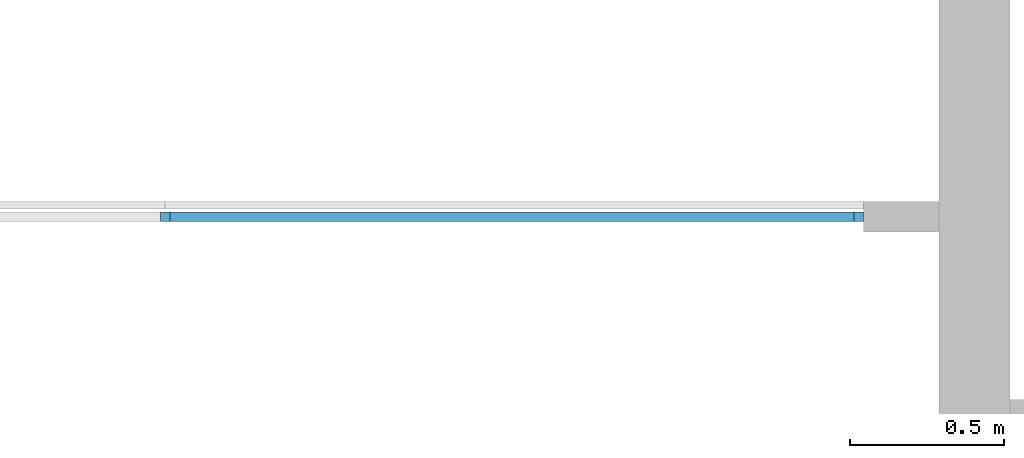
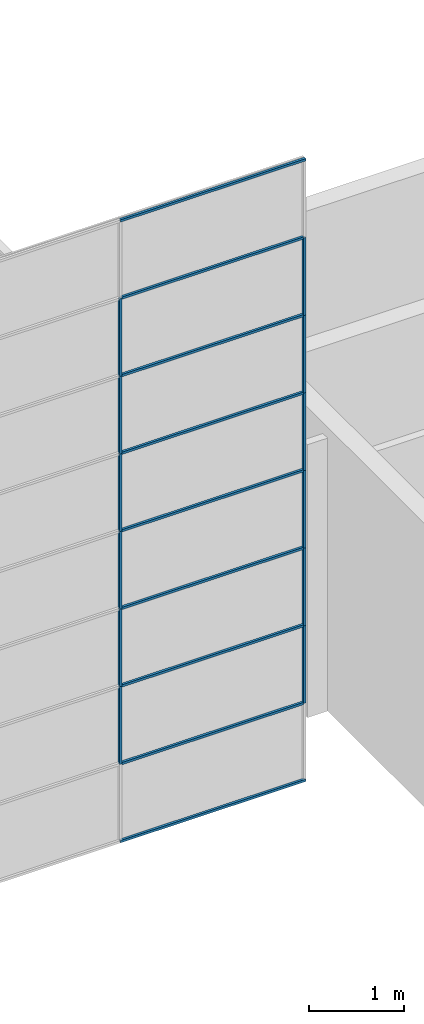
# One storey, part 3 of 16: 21 members, 1 element without a shape of its own.
"""IFC2X3 building model written with IfcOpenShell, lengths in millimetres."""

import ifcopenshell
import ifcopenshell.guid

model = None  # the IFC model being written
_history = None  # IfcOwnerHistory: only IFC2X3 demands one
_inside = {}  # id of a spatial element -> (the spatial element, [elements in it])
_under = {}  # id of a project, library or spatial element -> (it, [spatial elements below it])
_declared = {}  # id of a project -> (the project, [libraries it declares])
_typed = {}  # id of a type object -> (the type object, [elements of that type])
_made_of = {}  # id of a material, layer set ... -> (it, [elements and type objects made of it])


def new_model(schema):
    """Start an empty IFC model of exactly this schema.

    Asked for "IFC4X3", IfcOpenShell would pick the latest addendum, in which some entities
    have other attributes; the version numbers below select the first issue.
    IFC2X3 requires an IfcOwnerHistory on every rooted entity: one is made here for all.
    """
    global model, _history
    if schema == "IFC4X3":
        model = ifcopenshell.file(schema_version=(4, 3, 0, 0))
    else:
        model = ifcopenshell.file(schema=schema)
    _inside.clear()
    _under.clear()
    _declared.clear()
    _typed.clear()
    _made_of.clear()
    _history = None
    if model.schema == "IFC2X3":
        org = make("IfcOrganization", Name="unknown")
        user = make(
            "IfcPersonAndOrganization",
            ThePerson=make("IfcPerson", FamilyName="unknown"),
            TheOrganization=org,
        )
        app = make(
            "IfcApplication",
            ApplicationDeveloper=org,
            Version="unknown",
            ApplicationFullName="unknown",
            ApplicationIdentifier="unknown",
        )
        _history = make(
            "IfcOwnerHistory",
            OwningUser=user,
            OwningApplication=app,
            ChangeAction="ADDED",
            CreationDate=0,
        )
    return model


def make(cls, **values):
    """One entity of the class cls with the attributes given. An attribute that is None is left unset."""
    return model.create_entity(
        cls, **{name: value for name, value in values.items() if value is not None}
    )


def entity(cls, *values):
    """Any entity or typed value of the class cls, its attributes in the order of the schema. None: left unset."""
    e = model.create_entity(cls)
    for i, value in enumerate(values):
        if value is not None:
            e[i] = value
    return e


def rooted(cls, **values):
    """An entity with a GlobalId (a new one), such as an element, a storey or a relation."""
    return make(cls, GlobalId=ifcopenshell.guid.new(), OwnerHistory=_history, **values)


def si_unit(unit_type, name, prefix=None):
    """IfcSIUnit, for example si_unit("LENGTHUNIT", "METRE", prefix="MILLI")."""
    return make("IfcSIUnit", UnitType=unit_type, Prefix=prefix, Name=name)


def converted_unit(unit_type, name, factor, base, dimensions=None, offset=None):
    """IfcConversionBasedUnit, such as the inch: factor (a typed value) times the base unit."""
    return make(
        "IfcConversionBasedUnit"
        if offset is None
        else "IfcConversionBasedUnitWithOffset",
        ConversionOffset=offset,
        Dimensions=None
        if dimensions is None
        else entity("IfcDimensionalExponents", *dimensions),
        UnitType=unit_type,
        Name=name,
        ConversionFactor=make(
            "IfcMeasureWithUnit", ValueComponent=factor, UnitComponent=base
        ),
    )


def derived_unit(unit_type, elements):
    """IfcDerivedUnit: a product of units, each with its exponent."""
    return make(
        "IfcDerivedUnit",
        Elements=[
            make("IfcDerivedUnitElement", Unit=unit, Exponent=power)
            for unit, power in elements
        ],
        UnitType=unit_type,
    )


def assignment(units):
    """IfcUnitAssignment: the units of a project."""
    return None if units is None else make("IfcUnitAssignment", Units=units)


def point(xyz):
    """IfcCartesianPoint."""
    return None if xyz is None else make("IfcCartesianPoint", Coordinates=xyz)


def direction(xyz):
    """IfcDirection."""
    return None if xyz is None else make("IfcDirection", DirectionRatios=xyz)


def frame(location, z_axis=None, x_axis=None):
    """IfcAxis2Placement3D, a coordinate frame: its origin and axes. An axis left out is left unset."""
    return make(
        "IfcAxis2Placement3D",
        Location=point(location),
        Axis=direction(z_axis),
        RefDirection=direction(x_axis),
    )


def frame_2d(location, x_axis=None):
    """IfcAxis2Placement2D, a coordinate frame in the plane: its origin and x axis."""
    return make(
        "IfcAxis2Placement2D", Location=point(location), RefDirection=direction(x_axis)
    )


def origin():
    """The frame at (0, 0, 0) with its axes left unset."""
    return frame((0.0, 0.0, 0.0))


def origin_2d_with_axis():
    """The frame at (0, 0) in the plane with the x axis (1, 0) written out."""
    return frame_2d((0.0, 0.0), x_axis=(1.0, 0.0))


def place(relative_to, where):
    """IfcLocalPlacement: puts the frame where relative to a parent placement (None: the world)."""
    return make(
        "IfcLocalPlacement", PlacementRelTo=relative_to, RelativePlacement=where
    )


def context(
    kind, dimensions, precision=None, world=None, true_north=None, identifier=None
):
    """IfcGeometricRepresentationContext, for example the 3D "Model" context."""
    return make(
        "IfcGeometricRepresentationContext",
        ContextIdentifier=identifier,
        ContextType=kind,
        CoordinateSpaceDimension=dimensions,
        Precision=precision,
        WorldCoordinateSystem=world,
        TrueNorth=true_north,
    )


def subcontext(parent, identifier, kind, view, scale=None):
    """IfcGeometricRepresentationSubContext, for example "Body" below "Model"."""
    return make(
        "IfcGeometricRepresentationSubContext",
        ContextIdentifier=identifier,
        ContextType=kind,
        ParentContext=parent,
        TargetScale=scale,
        TargetView=view,
    )


def project(units=None, contexts=None):
    """IfcProject with its units and contexts."""
    return rooted(
        "IfcProject",
        Name="project",
        RepresentationContexts=contexts,
        UnitsInContext=assignment(units),
    )


def spatial(cls, under=None, at=None, **own):
    """A site, building, storey or space (cls), placed at a placement, below another one or the project."""
    s = rooted(cls, ObjectPlacement=at, **own)
    if under is not None:
        _under.setdefault(under.id(), (under, []))[1].append(s)
    return s


def profile(cls, at=None, kind="AREA", **sizes):
    """A parametric profile (cls). Its sizes go by their IFC names, for example OverallWidth=200.0."""
    return make(cls, ProfileType=kind, Position=at, **sizes)


def rectangle(**sizes):
    """IfcRectangleProfileDef."""
    return profile("IfcRectangleProfileDef", **sizes)


def extrude(swept, where, along, depth):
    """IfcExtrudedAreaSolid: the profile swept, set in the frame where, extruded along a direction by depth."""
    return make(
        "IfcExtrudedAreaSolid",
        SweptArea=swept,
        Position=where,
        ExtrudedDirection=direction(along),
        Depth=depth,
    )


def shape(context_of_items, identifier, shape_type, items):
    """IfcShapeRepresentation: the items that make up one representation, for example the "Body"."""
    return make(
        "IfcShapeRepresentation",
        ContextOfItems=context_of_items,
        RepresentationIdentifier=identifier,
        RepresentationType=shape_type,
        Items=items,
    )


def source(mapping_origin, context_of_items, identifier, shape_type, items):
    """IfcRepresentationMap: a shape defined once, which mapped items show again and again."""
    return make(
        "IfcRepresentationMap",
        MappingOrigin=mapping_origin,
        MappedRepresentation=shape(context_of_items, identifier, shape_type, items),
    )


def transform(
    local_origin,
    x_axis=None,
    y_axis=None,
    z_axis=None,
    scale=None,
    scale2=None,
    scale3=None,
    uniform=True,
):
    """IfcCartesianTransformationOperator3D, or its non-uniform kind. x_axis, y_axis, z_axis: its Axis1, 2, 3."""
    if uniform:
        return make(
            "IfcCartesianTransformationOperator3D",
            Axis1=direction(x_axis),
            Axis2=direction(y_axis),
            LocalOrigin=point(local_origin),
            Scale=scale,
            Axis3=direction(z_axis),
        )
    return make(
        "IfcCartesianTransformationOperator3DnonUniform",
        Axis1=direction(x_axis),
        Axis2=direction(y_axis),
        LocalOrigin=point(local_origin),
        Scale=scale,
        Axis3=direction(z_axis),
        Scale2=scale2,
        Scale3=scale3,
    )


def mapped(mapping_source, mapping_target):
    """IfcMappedItem: shows the shape of a source again, moved by a transform."""
    return make(
        "IfcMappedItem", MappingSource=mapping_source, MappingTarget=mapping_target
    )


def material(Name=None, Category=None):
    """IfcMaterial."""
    return make("IfcMaterial", Name=Name, Category=Category)


def made_of(thing, what):
    """Note that an element or type object is made of a material, layer set ...; save() writes the relation."""
    if what is not None:
        _made_of.setdefault(what.id(), (what, []))[1].append(thing)
    return thing


def type_object(cls, material=None, **own):
    """A type object (cls), such as IfcWallType, which elements share."""
    return made_of(rooted(cls, **own), material)


def type_shapes(of_type, sources):
    """Give a type object the sources (RepresentationMaps) that its elements show as mapped items."""
    of_type.RepresentationMaps = sources


def element(
    cls,
    number,
    at=None,
    inside=None,
    cuts=None,
    type_object=None,
    material=None,
    context=None,
    identifier="Body",
    shape_type=None,
    held_by="IfcProductDefinitionShape",
    body=None,
    shapes=None,
    **own,
):
    """One element of the class cls, such as IfcWall. Its Tag is "e" and its number.

    at: its placement. inside: the storey or other place that contains it. cuts: it is an
    opening in that element (IfcRelVoidsElement). A single representation is given by context,
    identifier, shape_type and body (its items); several are given by shapes. held_by: the class
    of the entity that holds the representations. save() writes the other relations.
    """
    e = rooted(cls, Tag="e%d" % number, ObjectPlacement=at, **own)
    if body is not None:
        shapes = [shape(context, identifier, shape_type, body)]
    if shapes is not None:
        e.Representation = make(held_by, Representations=shapes)
    if inside is not None:
        _inside.setdefault(inside.id(), (inside, []))[1].append(e)
    if cuts is not None:
        rooted(
            "IfcRelVoidsElement", RelatingBuildingElement=cuts, RelatedOpeningElement=e
        )
    if type_object is not None:
        _typed.setdefault(type_object.id(), (type_object, []))[1].append(e)
    return made_of(e, material)


def aggregate(whole, parts):
    """IfcRelAggregates: a whole, such as a stair, and the parts it consists of."""
    return rooted("IfcRelAggregates", RelatingObject=whole, RelatedObjects=parts)


def save(model, path):
    """Write the relations noted so far, then the file.

    IfcRelAggregates (storeys below a building ...), IfcRelContainedInSpatialStructure (elements
    in a storey), IfcRelDefinesByType, IfcRelAssociatesMaterial and IfcRelDeclares: one each for
    every whole, place, type object, material and project.
    """
    for whole, parts in _under.values():
        aggregate(whole, parts)
    for where, things in _inside.values():
        rooted(
            "IfcRelContainedInSpatialStructure",
            RelatedElements=things,
            RelatingStructure=where,
        )
    for kind, things in _typed.values():
        rooted("IfcRelDefinesByType", RelatedObjects=things, RelatingType=kind)
    for what, things in _made_of.values():
        rooted("IfcRelAssociatesMaterial", RelatedObjects=things, RelatingMaterial=what)
    for by, libraries in _declared.values():
        rooted("IfcRelDeclares", RelatingContext=by, RelatedDefinitions=libraries)
    model.write(path)


model = new_model("IFC2X3")

# Units and contexts
model_context = context("Model", 3, precision=0.01, world=origin(), true_north=direction((6.12303176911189e-17, 1.0)))
body_context = subcontext(model_context, "Body", "Model", "MODEL_VIEW")
ifc_project = project(units=[si_unit("LENGTHUNIT", "METRE", prefix="MILLI"), si_unit("AREAUNIT", "SQUARE_METRE"), si_unit("VOLUMEUNIT", "CUBIC_METRE"), converted_unit("PLANEANGLEUNIT", "DEGREE", entity("IfcRatioMeasure", 0.0174532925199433), si_unit("PLANEANGLEUNIT", "RADIAN"), dimensions=[0, 0, 0, 0, 0, 0, 0]), si_unit("MASSUNIT", "GRAM", prefix="KILO"), derived_unit("MASSDENSITYUNIT", [(si_unit("MASSUNIT", "GRAM", prefix="KILO"), 1), (si_unit("LENGTHUNIT", "METRE"), -3)]), derived_unit("MOMENTOFINERTIAUNIT", [(si_unit("LENGTHUNIT", "METRE"), 4)]), si_unit("TIMEUNIT", "SECOND"), si_unit("FREQUENCYUNIT", "HERTZ"), si_unit("THERMODYNAMICTEMPERATUREUNIT", "DEGREE_CELSIUS"), derived_unit("THERMALTRANSMITTANCEUNIT", [(si_unit("MASSUNIT", "GRAM", prefix="KILO"), 1), (si_unit("THERMODYNAMICTEMPERATUREUNIT", "KELVIN"), -1), (si_unit("TIMEUNIT", "SECOND"), -3)]), derived_unit("VOLUMETRICFLOWRATEUNIT", [(si_unit("LENGTHUNIT", "METRE"), 3), (si_unit("TIMEUNIT", "SECOND"), -1)]), si_unit("ELECTRICCURRENTUNIT", "AMPERE"), si_unit("ELECTRICVOLTAGEUNIT", "VOLT"), si_unit("POWERUNIT", "WATT"), si_unit("FORCEUNIT", "NEWTON", prefix="KILO"), si_unit("ILLUMINANCEUNIT", "LUX"), si_unit("LUMINOUSFLUXUNIT", "LUMEN"), si_unit("LUMINOUSINTENSITYUNIT", "CANDELA"), derived_unit("USERDEFINED", [(si_unit("MASSUNIT", "GRAM", prefix="KILO"), -1), (si_unit("LENGTHUNIT", "METRE"), -2), (si_unit("TIMEUNIT", "SECOND"), 3), (si_unit("LUMINOUSFLUXUNIT", "LUMEN"), 1)]), derived_unit("LINEARVELOCITYUNIT", [(si_unit("LENGTHUNIT", "METRE"), 1), (si_unit("TIMEUNIT", "SECOND"), -1)]), si_unit("PRESSUREUNIT", "PASCAL"), derived_unit("USERDEFINED", [(si_unit("LENGTHUNIT", "METRE"), -2), (si_unit("MASSUNIT", "GRAM", prefix="KILO"), 1), (si_unit("TIMEUNIT", "SECOND"), -2)]), derived_unit("LINEARFORCEUNIT", [(si_unit("MASSUNIT", "GRAM", prefix="KILO"), 1), (si_unit("LENGTHUNIT", "METRE"), 1), (si_unit("TIMEUNIT", "SECOND"), -2), (si_unit("LENGTHUNIT", "METRE"), -1)]), derived_unit("PLANARFORCEUNIT", [(si_unit("MASSUNIT", "GRAM", prefix="KILO"), 1), (si_unit("LENGTHUNIT", "METRE"), 1), (si_unit("TIMEUNIT", "SECOND"), -2), (si_unit("LENGTHUNIT", "METRE"), -2)])], contexts=[model_context])

# Site, building, storey
site_placement = place(None, frame((10627.5135316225, 21939.0796949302, 0.0)))
site = spatial("IfcSite", under=ifc_project, at=site_placement, Name="Default", CompositionType="ELEMENT")
building_placement = place(site_placement, origin())
building = spatial("IfcBuilding", under=site, at=building_placement, CompositionType="ELEMENT")
storey_placement = place(building_placement, frame((0.0, 0.0, 3660.0)))
storey = spatial("IfcBuildingStorey", under=building, at=storey_placement, Name="R+1", CompositionType="ELEMENT", Elevation=3660.0)

# Curtain wall, members
curtain_wall_type = type_object("IfcCurtainWallType", Name="Curtain Wall:Curtain_Wall-Exterior_Glazing", PredefinedType="NOTDEFINED")
curtain_wall_placement = place(storey_placement, frame((0.0, 0.0, -3660.0)))
curtain_wall = element("IfcCurtainWall", 1, at=curtain_wall_placement, inside=storey, type_object=curtain_wall_type, Name="Curtain Wall:Curtain_Wall-Exterior_Glazing", ObjectType="Curtain Wall:Curtain_Wall-Exterior_Glazing")
ifc_material = material(Name="Aluminium")
member_type_1 = type_object("IfcMemberType", Name="Rectangular Mullion:30mm_Square", PredefinedType="MULLION", material=ifc_material)
shared_shape_1 = source(origin(), body_context, "Body", "SweptSolid", [
    extrude(rectangle(XDim=30.0, YDim=30.0, at=origin_2d_with_axis()), frame((-15.0, 0.0, -2260.0), z_axis=(0.0, 0.0, 1.0), x_axis=(0.0, -1.0, 0.0)), (0.0, 0.0, 1.0), 2260.0),
])
type_shapes(member_type_1, [shared_shape_1])
member_1_placement = place(storey_placement, frame((29278.5113343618, -18895.8331484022, 7190.0), z_axis=(-1.0, 0.0, 0.0), x_axis=(0.0, 0.0, 1.0)))
member_1 = element("IfcMember", 2, at=member_1_placement, type_object=member_type_1, material=ifc_material, Name="Rectangular Mullion:30mm_Square", ObjectType="Rectangular Mullion:30mm_Square", context=body_context, shape_type="MappedRepresentation", body=[
    mapped(shared_shape_1, transform((0.0, 0.0, 0.0), scale=1.0)),
])
member_type_2 = type_object("IfcMemberType", Name="Rectangular Mullion:30mm_Square", PredefinedType="MULLION", material=ifc_material)
shared_shape_2 = source(origin(), body_context, "Body", "SweptSolid", [
    extrude(rectangle(XDim=30.0, YDim=30.0, at=origin_2d_with_axis()), frame((0.0, 0.0, -2215.0), z_axis=(0.0, 0.0, 1.0), x_axis=(0.0, -1.0, 0.0)), (0.0, 0.0, 1.0), 2215.0),
])
type_shapes(member_type_2, [shared_shape_2])
member_2_placement = place(storey_placement, frame((29293.5113343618, -18895.8331484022, 171.263601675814), z_axis=(-1.0, 0.0, 0.0), x_axis=(0.0, 0.0, 1.0)))
member_2 = element("IfcMember", 3, at=member_2_placement, type_object=member_type_2, material=ifc_material, Name="Rectangular Mullion:30mm_Square", ObjectType="Rectangular Mullion:30mm_Square", context=body_context, shape_type="MappedRepresentation", body=[
    mapped(shared_shape_2, transform((0.0, 0.0, 0.0), scale=1.0)),
])
member_3_placement = place(storey_placement, frame((29293.5113343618, -18895.8331484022, 1171.79737286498), z_axis=(-1.0, 0.0, 0.0), x_axis=(0.0, 0.0, 1.0)))
member_3 = element("IfcMember", 4, at=member_3_placement, type_object=member_type_2, material=ifc_material, Name="Rectangular Mullion:30mm_Square", ObjectType="Rectangular Mullion:30mm_Square", context=body_context, shape_type="MappedRepresentation", body=[
    mapped(shared_shape_2, transform((0.0, 0.0, 0.0), scale=1.0)),
])
member_4_placement = place(storey_placement, frame((29293.5113343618, -18895.8331484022, 2172.33114405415), z_axis=(-1.0, 0.0, 0.0), x_axis=(0.0, 0.0, 1.0)))
member_4 = element("IfcMember", 5, at=member_4_placement, type_object=member_type_2, material=ifc_material, Name="Rectangular Mullion:30mm_Square", ObjectType="Rectangular Mullion:30mm_Square", context=body_context, shape_type="MappedRepresentation", body=[
    mapped(shared_shape_2, transform((0.0, 0.0, 0.0), scale=1.0)),
])
member_5_placement = place(storey_placement, frame((29293.5113343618, -18895.8331484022, 3172.86491524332), z_axis=(-1.0, 0.0, 0.0), x_axis=(0.0, 0.0, 1.0)))
member_5 = element("IfcMember", 6, at=member_5_placement, type_object=member_type_2, material=ifc_material, Name="Rectangular Mullion:30mm_Square", ObjectType="Rectangular Mullion:30mm_Square", context=body_context, shape_type="MappedRepresentation", body=[
    mapped(shared_shape_2, transform((0.0, 0.0, 0.0), scale=1.0)),
])
member_6_placement = place(storey_placement, frame((29293.5113343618, -18895.8331484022, 4173.39868643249), z_axis=(-1.0, 0.0, 0.0), x_axis=(0.0, 0.0, 1.0)))
member_6 = element("IfcMember", 7, at=member_6_placement, type_object=member_type_2, material=ifc_material, Name="Rectangular Mullion:30mm_Square", ObjectType="Rectangular Mullion:30mm_Square", context=body_context, shape_type="MappedRepresentation", body=[
    mapped(shared_shape_2, transform((0.0, 0.0, 0.0), scale=1.0)),
])
member_7_placement = place(storey_placement, frame((29293.5113343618, -18895.8331484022, 5173.93245762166), z_axis=(-1.0, 0.0, 0.0), x_axis=(0.0, 0.0, 1.0)))
member_7 = element("IfcMember", 8, at=member_7_placement, type_object=member_type_2, material=ifc_material, Name="Rectangular Mullion:30mm_Square", ObjectType="Rectangular Mullion:30mm_Square", context=body_context, shape_type="MappedRepresentation", body=[
    mapped(shared_shape_2, transform((0.0, 0.0, 0.0), scale=1.0)),
])
member_8_placement = place(storey_placement, frame((29293.5113343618, -18895.8331484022, 6174.46622881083), z_axis=(-1.0, 0.0, 0.0), x_axis=(0.0, 0.0, 1.0)))
member_8 = element("IfcMember", 9, at=member_8_placement, type_object=member_type_2, material=ifc_material, Name="Rectangular Mullion:30mm_Square", ObjectType="Rectangular Mullion:30mm_Square", context=body_context, shape_type="MappedRepresentation", body=[
    mapped(shared_shape_2, transform((0.0, 0.0, 0.0), scale=1.0)),
])
member_type_3 = type_object("IfcMemberType", Name="Rectangular Mullion:30mm_Square", PredefinedType="MULLION", material=ifc_material)
shared_shape_3 = source(origin(), body_context, "Body", "SweptSolid", [
    extrude(rectangle(XDim=30.0, YDim=30.0, at=origin_2d_with_axis()), frame((0.0, 0.0, -1000.53377118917), z_axis=(0.0, 0.0, 1.0), x_axis=(0.0, -1.0, 0.0)), (0.0, 0.0, 1.0), 1000.53377118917),
])
type_shapes(member_type_3, [shared_shape_3])
member_9_placement = place(storey_placement, frame((29278.5113343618, -18895.8331484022, 171.263601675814), z_axis=(0.0, 0.0, -1.0), x_axis=(-1.0, 0.0, 0.0)))
member_9 = element("IfcMember", 10, at=member_9_placement, type_object=member_type_3, material=ifc_material, Name="Rectangular Mullion:30mm_Square", ObjectType="Rectangular Mullion:30mm_Square", context=body_context, shape_type="MappedRepresentation", body=[
    mapped(shared_shape_3, transform((0.0, 0.0, 0.0), scale=1.0)),
])
member_10_placement = place(storey_placement, frame((29278.5113343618, -18895.8331484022, 1171.79737286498), z_axis=(0.0, 0.0, -1.0), x_axis=(-1.0, 0.0, 0.0)))
member_10 = element("IfcMember", 11, at=member_10_placement, type_object=member_type_3, material=ifc_material, Name="Rectangular Mullion:30mm_Square", ObjectType="Rectangular Mullion:30mm_Square", context=body_context, shape_type="MappedRepresentation", body=[
    mapped(shared_shape_3, transform((0.0, 0.0, 0.0), scale=1.0)),
])
member_11_placement = place(storey_placement, frame((29278.5113343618, -18895.8331484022, 2172.33114405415), z_axis=(0.0, 0.0, -1.0), x_axis=(-1.0, 0.0, 0.0)))
member_11 = element("IfcMember", 12, at=member_11_placement, type_object=member_type_3, material=ifc_material, Name="Rectangular Mullion:30mm_Square", ObjectType="Rectangular Mullion:30mm_Square", context=body_context, shape_type="MappedRepresentation", body=[
    mapped(shared_shape_3, transform((0.0, 0.0, 0.0), scale=1.0)),
])
member_12_placement = place(storey_placement, frame((29278.5113343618, -18895.8331484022, 3172.86491524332), z_axis=(0.0, 0.0, -1.0), x_axis=(-1.0, 0.0, 0.0)))
member_12 = element("IfcMember", 13, at=member_12_placement, type_object=member_type_3, material=ifc_material, Name="Rectangular Mullion:30mm_Square", ObjectType="Rectangular Mullion:30mm_Square", context=body_context, shape_type="MappedRepresentation", body=[
    mapped(shared_shape_3, transform((0.0, 0.0, 0.0), scale=1.0)),
])
member_13_placement = place(storey_placement, frame((29278.5113343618, -18895.8331484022, 4173.39868643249), z_axis=(0.0, 0.0, -1.0), x_axis=(-1.0, 0.0, 0.0)))
member_13 = element("IfcMember", 14, at=member_13_placement, type_object=member_type_3, material=ifc_material, Name="Rectangular Mullion:30mm_Square", ObjectType="Rectangular Mullion:30mm_Square", context=body_context, shape_type="MappedRepresentation", body=[
    mapped(shared_shape_3, transform((0.0, 0.0, 0.0), scale=1.0)),
])
member_14_placement = place(storey_placement, frame((29278.5113343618, -18895.8331484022, 5173.93245762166), z_axis=(0.0, 0.0, -1.0), x_axis=(-1.0, 0.0, 0.0)))
member_14 = element("IfcMember", 15, at=member_14_placement, type_object=member_type_3, material=ifc_material, Name="Rectangular Mullion:30mm_Square", ObjectType="Rectangular Mullion:30mm_Square", context=body_context, shape_type="MappedRepresentation", body=[
    mapped(shared_shape_3, transform((0.0, 0.0, 0.0), scale=1.0)),
])
member_type_4 = type_object("IfcMemberType", Name="Rectangular Mullion:30mm_Square", PredefinedType="MULLION", material=ifc_material)
shared_shape_4 = source(origin(), body_context, "Body", "SweptSolid", [
    extrude(rectangle(XDim=30.0, YDim=30.0, at=origin_2d_with_axis()), frame((-15.0, 0.0, -1000.53377118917), z_axis=(0.0, 0.0, 1.0), x_axis=(0.0, -1.0, 0.0)), (0.0, 0.0, 1.0), 1000.53377118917),
])
type_shapes(member_type_4, [shared_shape_4])
member_15_placement = place(storey_placement, frame((31538.5113343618, -18895.8331484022, 1171.79737286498)))
member_15 = element("IfcMember", 16, at=member_15_placement, type_object=member_type_4, material=ifc_material, Name="Rectangular Mullion:30mm_Square", ObjectType="Rectangular Mullion:30mm_Square", context=body_context, shape_type="MappedRepresentation", body=[
    mapped(shared_shape_4, transform((0.0, 0.0, 0.0), scale=1.0)),
])
member_16_placement = place(storey_placement, frame((31538.5113343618, -18895.8331484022, 2172.33114405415)))
member_16 = element("IfcMember", 17, at=member_16_placement, type_object=member_type_4, material=ifc_material, Name="Rectangular Mullion:30mm_Square", ObjectType="Rectangular Mullion:30mm_Square", context=body_context, shape_type="MappedRepresentation", body=[
    mapped(shared_shape_4, transform((0.0, 0.0, 0.0), scale=1.0)),
])
member_17_placement = place(storey_placement, frame((31538.5113343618, -18895.8331484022, 3172.86491524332)))
member_17 = element("IfcMember", 18, at=member_17_placement, type_object=member_type_4, material=ifc_material, Name="Rectangular Mullion:30mm_Square", ObjectType="Rectangular Mullion:30mm_Square", context=body_context, shape_type="MappedRepresentation", body=[
    mapped(shared_shape_4, transform((0.0, 0.0, 0.0), scale=1.0)),
])
member_18_placement = place(storey_placement, frame((31538.5113343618, -18895.8331484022, 4173.39868643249)))
member_18 = element("IfcMember", 19, at=member_18_placement, type_object=member_type_4, material=ifc_material, Name="Rectangular Mullion:30mm_Square", ObjectType="Rectangular Mullion:30mm_Square", context=body_context, shape_type="MappedRepresentation", body=[
    mapped(shared_shape_4, transform((0.0, 0.0, 0.0), scale=1.0)),
])
member_19_placement = place(storey_placement, frame((31538.5113343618, -18895.8331484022, 5173.93245762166)))
member_19 = element("IfcMember", 20, at=member_19_placement, type_object=member_type_4, material=ifc_material, Name="Rectangular Mullion:30mm_Square", ObjectType="Rectangular Mullion:30mm_Square", context=body_context, shape_type="MappedRepresentation", body=[
    mapped(shared_shape_4, transform((0.0, 0.0, 0.0), scale=1.0)),
])
member_20_placement = place(storey_placement, frame((31538.5113343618, -18895.8331484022, 6174.46622881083)))
member_20 = element("IfcMember", 21, at=member_20_placement, type_object=member_type_4, material=ifc_material, Name="Rectangular Mullion:30mm_Square", ObjectType="Rectangular Mullion:30mm_Square", context=body_context, shape_type="MappedRepresentation", body=[
    mapped(shared_shape_4, transform((0.0, 0.0, 0.0), scale=1.0)),
])
member_type_5 = type_object("IfcMemberType", Name="Rectangular Mullion:30mm_Square", PredefinedType="MULLION", material=ifc_material)
shared_shape_5 = source(origin(), body_context, "Body", "SweptSolid", [
    extrude(rectangle(XDim=30.0, YDim=30.0, at=origin_2d_with_axis()), frame((-15.0, 0.0, -2260.0), z_axis=(0.0, 0.0, 1.0), x_axis=(0.0, -1.0, 0.0)), (0.0, 0.0, 1.0), 2260.0),
])
type_shapes(member_type_5, [shared_shape_5])
member_21_placement = place(storey_placement, frame((31538.5113343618, -18895.8331484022, -844.270169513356), z_axis=(1.0, 0.0, 0.0), x_axis=(0.0, 0.0, -1.0)))
member_21 = element("IfcMember", 22, at=member_21_placement, type_object=member_type_5, material=ifc_material, Name="Rectangular Mullion:30mm_Square", ObjectType="Rectangular Mullion:30mm_Square", context=body_context, shape_type="MappedRepresentation", body=[
    mapped(shared_shape_5, transform((0.0, 0.0, 0.0), scale=1.0)),
])
aggregate(curtain_wall, [member_1, member_2, member_9, member_15, member_10, member_3, member_16, member_17, member_18, member_19, member_20, member_11, member_12, member_13, member_14, member_4, member_5, member_6, member_7, member_8, member_21])

save(model, "model.ifc")
